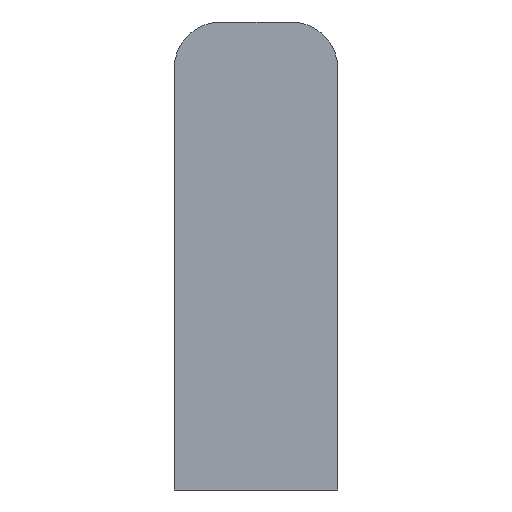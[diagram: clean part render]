
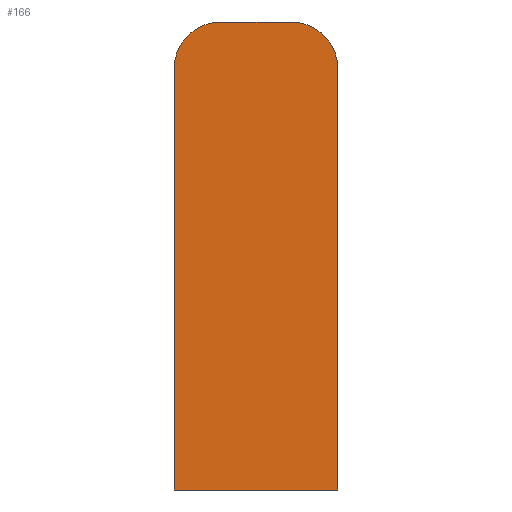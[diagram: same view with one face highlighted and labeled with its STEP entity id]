
A CAD part, front view. The second image highlights one B-rep face of the part: STEP entity #166.
In plain terms, the highlighted planar face has unit normal (0, -1, 0).
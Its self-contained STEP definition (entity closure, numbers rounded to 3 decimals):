
#1 = AXIS2_PLACEMENT_3D ( 'NONE', #61, #63, #64 ) ;
#4 = AXIS2_PLACEMENT_3D ( 'NONE', #58, #66, #67 ) ;
#6 = EDGE_CURVE ( 'NONE', #49, #51, #208, .T. ) ;
#7 = EDGE_CURVE ( 'NONE', #99, #52, #244, .T. ) ;
#8 = EDGE_CURVE ( 'NONE', #50, #53, #249, .T. ) ;
#17 = EDGE_CURVE ( 'NONE', #52, #50, #250, .T. ) ;
#18 = AXIS2_PLACEMENT_3D ( 'NONE', #129, #134, #135 ) ;
#31 = EDGE_CURVE ( 'NONE', #51, #99, #183, .T. ) ;
#35 = EDGE_CURVE ( 'NONE', #53, #49, #225, .T. ) ;
#49 = VERTEX_POINT ( 'NONE', #84 ) ;
#50 = VERTEX_POINT ( 'NONE', #95 ) ;
#51 = VERTEX_POINT ( 'NONE', #85 ) ;
#52 = VERTEX_POINT ( 'NONE', #92 ) ;
#53 = VERTEX_POINT ( 'NONE', #93 ) ;
#58 = CARTESIAN_POINT ( 'NONE',  ( -2.25, 0., 10.5 ) ) ;
#59 = CARTESIAN_POINT ( 'NONE',  ( 5.25, 0., -16.5 ) ) ;
#60 = DIRECTION ( 'NONE',  ( 1., 0., 0. ) ) ;
#61 = CARTESIAN_POINT ( 'NONE',  ( 2.25, 0., 10.5 ) ) ;
#63 = DIRECTION ( 'NONE',  ( 0., -1., 0. ) ) ;
#64 = DIRECTION ( 'NONE',  ( -1., 0., 0. ) ) ;
#65 = CARTESIAN_POINT ( 'NONE',  ( 2.25, 0., 13.5 ) ) ;
#66 = DIRECTION ( 'NONE',  ( 0., -1., 0. ) ) ;
#67 = DIRECTION ( 'NONE',  ( -1., 0., 0. ) ) ;
#73 = DIRECTION ( 'NONE',  ( -1., 0., 0. ) ) ;
#82 = CARTESIAN_POINT ( 'NONE',  ( 5.25, 0., -16.5 ) ) ;
#84 = CARTESIAN_POINT ( 'NONE',  ( -5.25, 0., -16.5 ) ) ;
#85 = CARTESIAN_POINT ( 'NONE',  ( 5.25, 0., -16.5 ) ) ;
#87 = CARTESIAN_POINT ( 'NONE',  ( -5.25, 0., -16.5 ) ) ;
#91 = CARTESIAN_POINT ( 'NONE',  ( 5.25, 0., 10.5 ) ) ;
#92 = CARTESIAN_POINT ( 'NONE',  ( 2.25, 0., 13.5 ) ) ;
#93 = CARTESIAN_POINT ( 'NONE',  ( -5.25, 0., 10.5 ) ) ;
#95 = CARTESIAN_POINT ( 'NONE',  ( -2.25, 0., 13.5 ) ) ;
#98 = DIRECTION ( 'NONE',  ( 0., 0., -1. ) ) ;
#99 = VERTEX_POINT ( 'NONE', #91 ) ;
#100 = DIRECTION ( 'NONE',  ( 0., 0., 1. ) ) ;
#126 = PLANE ( 'NONE',  #18 ) ;
#129 = CARTESIAN_POINT ( 'NONE',  ( 0., 0., -1.5 ) ) ;
#134 = DIRECTION ( 'NONE',  ( 0., 1., 0. ) ) ;
#135 = DIRECTION ( 'NONE',  ( -1., 0., 0. ) ) ;
#166 = ADVANCED_FACE ( 'NONE', ( #265 ), #126, .F. ) ;
#173 = ORIENTED_EDGE ( 'NONE', *, *, #17, .T. ) ;
#181 = ORIENTED_EDGE ( 'NONE', *, *, #7, .T. ) ;
#183 = LINE ( 'NONE', #82, #263 ) ;
#184 = ORIENTED_EDGE ( 'NONE', *, *, #6, .T. ) ;
#186 = ORIENTED_EDGE ( 'NONE', *, *, #35, .T. ) ;
#190 = ORIENTED_EDGE ( 'NONE', *, *, #8, .T. ) ;
#191 = VECTOR ( 'NONE', #60, 1000. ) ;
#208 = LINE ( 'NONE', #59, #191 ) ;
#225 = LINE ( 'NONE', #87, #235 ) ;
#235 = VECTOR ( 'NONE', #98, 1000. ) ;
#240 = VECTOR ( 'NONE', #73, 1000. ) ;
#244 = CIRCLE ( 'NONE', #1, 3. ) ;
#249 = CIRCLE ( 'NONE', #4, 3. ) ;
#250 = LINE ( 'NONE', #65, #240 ) ;
#251 = ORIENTED_EDGE ( 'NONE', *, *, #31, .T. ) ;
#256 = EDGE_LOOP ( 'NONE', ( #251, #181, #173, #190, #186, #184 ) ) ;
#263 = VECTOR ( 'NONE', #100, 1000. ) ;
#265 = FACE_OUTER_BOUND ( 'NONE', #256, .T. ) ;
